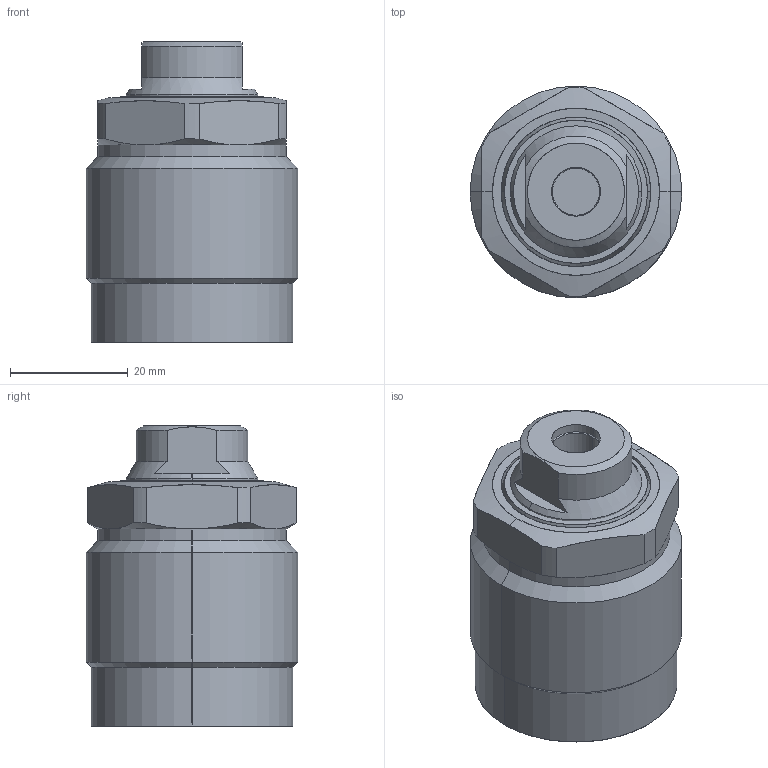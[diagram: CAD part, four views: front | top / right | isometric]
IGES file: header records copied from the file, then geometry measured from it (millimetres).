
Start section: SolidWorks IGES file using analytic representation for surfaces
Global section: file name: D:\abhilash\nijil\cylinder\Clasys1\dp converted\05\pt\0501\0102-0501.IGS; native system: SolidWorks 2010; preprocessor: SolidWorks 2010; author: nidheesh; date: 130730.113348; units: millimetre
Bounding box: 36 x 36 x 51 mm (x, y, z)
Surface area: 8891.6 mm2 (no closed solid volume)
Topology: 0 solids, 0 shells, 70 faces, 1078 edges, 1078 vertices
Faces by surface type: revolution 46, bspline 24
